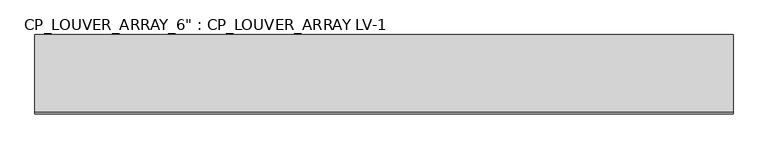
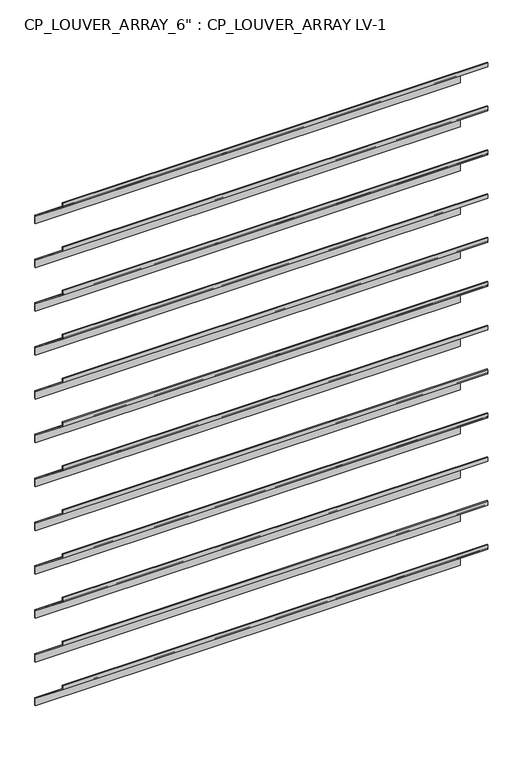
"""IFC4 building model written with IfcOpenShell, lengths in millimetres: plate geometry."""

import ifcopenshell
import ifcopenshell.guid

model = None  # the IFC model being written
_history = None  # IfcOwnerHistory: only IFC2X3 demands one
_inside = {}  # id of a spatial element -> (the spatial element, [elements in it])
_under = {}  # id of a project, library or spatial element -> (it, [spatial elements below it])
_declared = {}  # id of a project -> (the project, [libraries it declares])
_typed = {}  # id of a type object -> (the type object, [elements of that type])
_made_of = {}  # id of a material, layer set ... -> (it, [elements and type objects made of it])


def new_model(schema):
    """Start an empty IFC model of exactly this schema.

    Asked for "IFC4X3", IfcOpenShell would pick the latest addendum, in which some entities
    have other attributes; the version numbers below select the first issue.
    IFC2X3 requires an IfcOwnerHistory on every rooted entity: one is made here for all.
    """
    global model, _history
    if schema == "IFC4X3":
        model = ifcopenshell.file(schema_version=(4, 3, 0, 0))
    else:
        model = ifcopenshell.file(schema=schema)
    _inside.clear()
    _under.clear()
    _declared.clear()
    _typed.clear()
    _made_of.clear()
    _history = None
    if model.schema == "IFC2X3":
        org = make("IfcOrganization", Name="unknown")
        user = make(
            "IfcPersonAndOrganization",
            ThePerson=make("IfcPerson", FamilyName="unknown"),
            TheOrganization=org,
        )
        app = make(
            "IfcApplication",
            ApplicationDeveloper=org,
            Version="unknown",
            ApplicationFullName="unknown",
            ApplicationIdentifier="unknown",
        )
        _history = make(
            "IfcOwnerHistory",
            OwningUser=user,
            OwningApplication=app,
            ChangeAction="ADDED",
            CreationDate=0,
        )
    return model


def make(cls, **values):
    """One entity of the class cls with the attributes given. An attribute that is None is left unset."""
    return model.create_entity(
        cls, **{name: value for name, value in values.items() if value is not None}
    )


def rooted(cls, **values):
    """An entity with a GlobalId (a new one), such as an element, a storey or a relation."""
    return make(cls, GlobalId=ifcopenshell.guid.new(), OwnerHistory=_history, **values)


def si_unit(unit_type, name, prefix=None):
    """IfcSIUnit, for example si_unit("LENGTHUNIT", "METRE", prefix="MILLI")."""
    return make("IfcSIUnit", UnitType=unit_type, Prefix=prefix, Name=name)


def assignment(units):
    """IfcUnitAssignment: the units of a project."""
    return None if units is None else make("IfcUnitAssignment", Units=units)


def point(xyz):
    """IfcCartesianPoint."""
    return None if xyz is None else make("IfcCartesianPoint", Coordinates=xyz)


def direction(xyz):
    """IfcDirection."""
    return None if xyz is None else make("IfcDirection", DirectionRatios=xyz)


def frame(location, z_axis=None, x_axis=None):
    """IfcAxis2Placement3D, a coordinate frame: its origin and axes. An axis left out is left unset."""
    return make(
        "IfcAxis2Placement3D",
        Location=point(location),
        Axis=direction(z_axis),
        RefDirection=direction(x_axis),
    )


def origin():
    """The frame at (0, 0, 0) with its axes left unset."""
    return frame((0.0, 0.0, 0.0))


def place(relative_to, where):
    """IfcLocalPlacement: puts the frame where relative to a parent placement (None: the world)."""
    return make(
        "IfcLocalPlacement", PlacementRelTo=relative_to, RelativePlacement=where
    )


def context(
    kind, dimensions, precision=None, world=None, true_north=None, identifier=None
):
    """IfcGeometricRepresentationContext, for example the 3D "Model" context."""
    return make(
        "IfcGeometricRepresentationContext",
        ContextIdentifier=identifier,
        ContextType=kind,
        CoordinateSpaceDimension=dimensions,
        Precision=precision,
        WorldCoordinateSystem=world,
        TrueNorth=true_north,
    )


def project(units=None, contexts=None):
    """IfcProject with its units and contexts."""
    return rooted(
        "IfcProject",
        Name="project",
        RepresentationContexts=contexts,
        UnitsInContext=assignment(units),
    )


def spatial(cls, under=None, at=None, **own):
    """A site, building, storey or space (cls), placed at a placement, below another one or the project."""
    s = rooted(cls, ObjectPlacement=at, **own)
    if under is not None:
        _under.setdefault(under.id(), (under, []))[1].append(s)
    return s


def polyline(points):
    """IfcPolyline through the points."""
    return make("IfcPolyline", Points=[point(p) for p in points])


def outline(outer, holes=None, kind="AREA"):
    """IfcArbitraryClosedProfileDef: a profile drawn as a closed curve; with holes, ...WithVoids."""
    if holes is None:
        return make("IfcArbitraryClosedProfileDef", ProfileType=kind, OuterCurve=outer)
    return make(
        "IfcArbitraryProfileDefWithVoids",
        ProfileType=kind,
        OuterCurve=outer,
        InnerCurves=holes,
    )


def extrude(swept, where, along, depth):
    """IfcExtrudedAreaSolid: the profile swept, set in the frame where, extruded along a direction by depth."""
    return make(
        "IfcExtrudedAreaSolid",
        SweptArea=swept,
        Position=where,
        ExtrudedDirection=direction(along),
        Depth=depth,
    )


def shape(context_of_items, identifier, shape_type, items):
    """IfcShapeRepresentation: the items that make up one representation, for example the "Body"."""
    return make(
        "IfcShapeRepresentation",
        ContextOfItems=context_of_items,
        RepresentationIdentifier=identifier,
        RepresentationType=shape_type,
        Items=items,
    )


def source(mapping_origin, context_of_items, identifier, shape_type, items):
    """IfcRepresentationMap: a shape defined once, which mapped items show again and again."""
    return make(
        "IfcRepresentationMap",
        MappingOrigin=mapping_origin,
        MappedRepresentation=shape(context_of_items, identifier, shape_type, items),
    )


def transform(
    local_origin,
    x_axis=None,
    y_axis=None,
    z_axis=None,
    scale=None,
    scale2=None,
    scale3=None,
    uniform=True,
):
    """IfcCartesianTransformationOperator3D, or its non-uniform kind. x_axis, y_axis, z_axis: its Axis1, 2, 3."""
    if uniform:
        return make(
            "IfcCartesianTransformationOperator3D",
            Axis1=direction(x_axis),
            Axis2=direction(y_axis),
            LocalOrigin=point(local_origin),
            Scale=scale,
            Axis3=direction(z_axis),
        )
    return make(
        "IfcCartesianTransformationOperator3DnonUniform",
        Axis1=direction(x_axis),
        Axis2=direction(y_axis),
        LocalOrigin=point(local_origin),
        Scale=scale,
        Axis3=direction(z_axis),
        Scale2=scale2,
        Scale3=scale3,
    )


def mapped(mapping_source, mapping_target):
    """IfcMappedItem: shows the shape of a source again, moved by a transform."""
    return make(
        "IfcMappedItem", MappingSource=mapping_source, MappingTarget=mapping_target
    )


def made_of(thing, what):
    """Note that an element or type object is made of a material, layer set ...; save() writes the relation."""
    if what is not None:
        _made_of.setdefault(what.id(), (what, []))[1].append(thing)
    return thing


def element(
    cls,
    number,
    at=None,
    inside=None,
    cuts=None,
    type_object=None,
    material=None,
    context=None,
    identifier="Body",
    shape_type=None,
    held_by="IfcProductDefinitionShape",
    body=None,
    shapes=None,
    **own,
):
    """One element of the class cls, such as IfcWall. Its Tag is "e" and its number.

    at: its placement. inside: the storey or other place that contains it. cuts: it is an
    opening in that element (IfcRelVoidsElement). A single representation is given by context,
    identifier, shape_type and body (its items); several are given by shapes. held_by: the class
    of the entity that holds the representations. save() writes the other relations.
    """
    e = rooted(cls, Tag="e%d" % number, ObjectPlacement=at, **own)
    if body is not None:
        shapes = [shape(context, identifier, shape_type, body)]
    if shapes is not None:
        e.Representation = make(held_by, Representations=shapes)
    if inside is not None:
        _inside.setdefault(inside.id(), (inside, []))[1].append(e)
    if cuts is not None:
        rooted(
            "IfcRelVoidsElement", RelatingBuildingElement=cuts, RelatedOpeningElement=e
        )
    if type_object is not None:
        _typed.setdefault(type_object.id(), (type_object, []))[1].append(e)
    return made_of(e, material)


def aggregate(whole, parts):
    """IfcRelAggregates: a whole, such as a stair, and the parts it consists of."""
    return rooted("IfcRelAggregates", RelatingObject=whole, RelatedObjects=parts)


def save(model, path):
    """Write the relations noted so far, then the file.

    IfcRelAggregates (storeys below a building ...), IfcRelContainedInSpatialStructure (elements
    in a storey), IfcRelDefinesByType, IfcRelAssociatesMaterial and IfcRelDeclares: one each for
    every whole, place, type object, material and project.
    """
    for whole, parts in _under.values():
        aggregate(whole, parts)
    for where, things in _inside.values():
        rooted(
            "IfcRelContainedInSpatialStructure",
            RelatedElements=things,
            RelatingStructure=where,
        )
    for kind, things in _typed.values():
        rooted("IfcRelDefinesByType", RelatedObjects=things, RelatingType=kind)
    for what, things in _made_of.values():
        rooted("IfcRelAssociatesMaterial", RelatedObjects=things, RelatingMaterial=what)
    for by, libraries in _declared.values():
        rooted("IfcRelDeclares", RelatingContext=by, RelatedDefinitions=libraries)
    model.write(path)


def plate_fca04df5(model_context):
    return source(origin(), model_context, "Body", "SweptSolid", [
        extrude(outline(polyline([(10.1207966, 1689.1), (6.9457966, 1689.1), (6.9457966, 1715.0070081), (-148.6292034, 1839.4670081), (-148.6292034, 1854.2), (-145.4542034, 1854.2), (-145.4542034, 1840.9929919), (10.1207966, 1716.5329919), (10.1207966, 1689.1)])), frame((-698.5, 0.0, 0.0), z_axis=(1.0, 0.0, 0.0), x_axis=(0.0, 1.0, 0.0)), (0.0, 0.0, 1.0), 1397.0),
        extrude(outline(polyline([(10.1207966, 1536.7), (6.9457966, 1536.7), (6.9457966, 1562.6070081), (-148.6292034, 1687.0670081), (-148.6292034, 1701.8), (-145.4542034, 1701.8), (-145.4542034, 1688.5929919), (10.1207966, 1564.1329919), (10.1207966, 1536.7)])), frame((-698.5, 0.0, 0.0), z_axis=(1.0, 0.0, 0.0), x_axis=(0.0, 1.0, 0.0)), (0.0, 0.0, 1.0), 1397.0),
        extrude(outline(polyline([(10.1207966, 1384.3), (6.9457966, 1384.3), (6.9457966, 1410.2070081), (-148.6292034, 1534.6670081), (-148.6292034, 1549.4), (-145.4542034, 1549.4), (-145.4542034, 1536.1929919), (10.1207966, 1411.7329919), (10.1207966, 1384.3)])), frame((-698.5, 0.0, 0.0), z_axis=(1.0, 0.0, 0.0), x_axis=(0.0, 1.0, 0.0)), (0.0, 0.0, 1.0), 1397.0),
        extrude(outline(polyline([(10.1207966, 1231.9), (6.9457966, 1231.9), (6.9457966, 1257.8070081), (-148.6292034, 1382.2670081), (-148.6292034, 1397.0), (-145.4542034, 1397.0), (-145.4542034, 1383.7929919), (10.1207966, 1259.3329919), (10.1207966, 1231.9)])), frame((-698.5, 0.0, 0.0), z_axis=(1.0, 0.0, 0.0), x_axis=(0.0, 1.0, 0.0)), (0.0, 0.0, 1.0), 1397.0),
        extrude(outline(polyline([(10.1207966, 1079.5), (6.9457966, 1079.5), (6.9457966, 1105.4070081), (-148.6292034, 1229.8670081), (-148.6292034, 1244.6), (-145.4542034, 1244.6), (-145.4542034, 1231.3929919), (10.1207966, 1106.9329919), (10.1207966, 1079.5)])), frame((-698.5, 0.0, 0.0), z_axis=(1.0, 0.0, 0.0), x_axis=(0.0, 1.0, 0.0)), (0.0, 0.0, 1.0), 1397.0),
        extrude(outline(polyline([(10.1207966, 927.1), (6.9457966, 927.1), (6.9457966, 953.0070081), (-148.6292034, 1077.4670081), (-148.6292034, 1092.2), (-145.4542034, 1092.2), (-145.4542034, 1078.9929919), (10.1207966, 954.5329919), (10.1207966, 927.1)])), frame((-698.5, 0.0, 0.0), z_axis=(1.0, 0.0, 0.0), x_axis=(0.0, 1.0, 0.0)), (0.0, 0.0, 1.0), 1397.0),
        extrude(outline(polyline([(10.1207966, 774.7), (6.9457966, 774.7), (6.9457966, 800.6070081), (-148.6292034, 925.0670081), (-148.6292034, 939.8), (-145.4542034, 939.8), (-145.4542034, 926.5929919), (10.1207966, 802.1329919), (10.1207966, 774.7)])), frame((-698.5, 0.0, 0.0), z_axis=(1.0, 0.0, 0.0), x_axis=(0.0, 1.0, 0.0)), (0.0, 0.0, 1.0), 1397.0),
        extrude(outline(polyline([(10.1207966, 622.3), (6.9457966, 622.3), (6.9457966, 648.2070081), (-148.6292034, 772.6670081), (-148.6292034, 787.4), (-145.4542034, 787.4), (-145.4542034, 774.1929919), (10.1207966, 649.7329919), (10.1207966, 622.3)])), frame((-698.5, 0.0, 0.0), z_axis=(1.0, 0.0, 0.0), x_axis=(0.0, 1.0, 0.0)), (0.0, 0.0, 1.0), 1397.0),
        extrude(outline(polyline([(10.1207966, 469.9), (6.9457966, 469.9), (6.9457966, 495.8070081), (-148.6292034, 620.2670081), (-148.6292034, 635.0), (-145.4542034, 635.0), (-145.4542034, 621.7929919), (10.1207966, 497.3329919), (10.1207966, 469.9)])), frame((-698.5, 0.0, 0.0), z_axis=(1.0, 0.0, 0.0), x_axis=(0.0, 1.0, 0.0)), (0.0, 0.0, 1.0), 1397.0),
        extrude(outline(polyline([(10.1207966, 317.5), (6.9457966, 317.5), (6.9457966, 343.4070081), (-148.6292034, 467.8670081), (-148.6292034, 482.6), (-145.4542034, 482.6), (-145.4542034, 469.3929919), (10.1207966, 344.9329919), (10.1207966, 317.5)])), frame((-698.5, 0.0, 0.0), z_axis=(1.0, 0.0, 0.0), x_axis=(0.0, 1.0, 0.0)), (0.0, 0.0, 1.0), 1397.0),
        extrude(outline(polyline([(10.1207966, 165.1), (6.9457966, 165.1), (6.9457966, 191.0070081), (-148.6292034, 315.4670081), (-148.6292034, 330.2), (-145.4542034, 330.2), (-145.4542034, 316.9929919), (10.1207966, 192.5329919), (10.1207966, 165.1)])), frame((-698.5, 0.0, 0.0), z_axis=(1.0, 0.0, 0.0), x_axis=(0.0, 1.0, 0.0)), (0.0, 0.0, 1.0), 1397.0),
        extrude(outline(polyline([(10.1207966, 12.7), (6.9457966, 12.7), (6.9457966, 38.6070081), (-148.6292034, 163.0670081), (-148.6292034, 177.8), (-145.4542034, 177.8), (-145.4542034, 164.5929919), (10.1207966, 40.1329919), (10.1207966, 12.7)])), frame((-698.5, 0.0, 0.0), z_axis=(1.0, 0.0, 0.0), x_axis=(0.0, 1.0, 0.0)), (0.0, 0.0, 1.0), 1397.0),
    ])


if __name__ == "__main__":
    model = new_model("IFC4")
    model_context = context("Model", 3, world=origin())
    ifc_project = project(units=[si_unit("LENGTHUNIT", "METRE", prefix="MILLI")], contexts=[model_context])
    site = spatial("IfcSite", under=ifc_project)
    building = spatial("IfcBuilding", under=site)
    placement = place(None, origin())
    plate_shape = plate_fca04df5(model_context)
    element("IfcPlate", 1, ObjectType="CP_LOUVER_ARRAY_6\" : CP_LOUVER_ARRAY LV-1", at=placement, inside=building, context=model_context, shape_type="MappedRepresentation", body=[
        mapped(plate_shape, transform((0.0, 0.0, 0.0), x_axis=(1.0, 0.0, 0.0), y_axis=(0.0, 1.0, 0.0), z_axis=(0.0, 0.0, 1.0))),
    ])
    save(model, "model.ifc")
